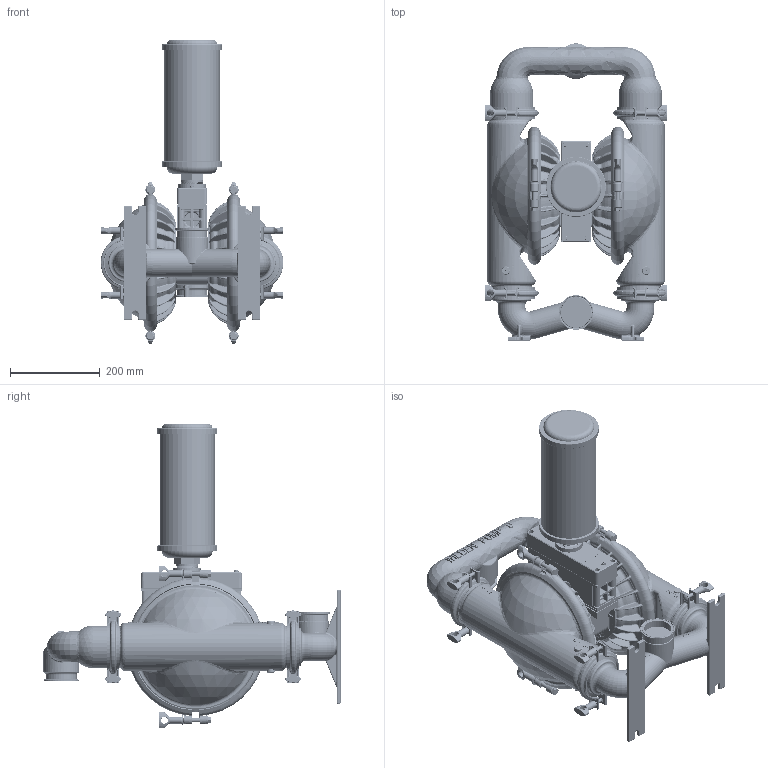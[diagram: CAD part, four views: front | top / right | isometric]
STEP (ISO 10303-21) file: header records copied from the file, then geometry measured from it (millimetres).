
FILE_DESCRIPTION (( 'STEP AP203' ), '1' );
FILE_NAME ('ps8_ss_fda_top s.STEP', '2022-07-06T11:44:58', ( '' ), ( '' ), 'SwSTEP 2.0', 'SolidWorks 2019', '' );
FILE_SCHEMA (( 'CONFIG_CONTROL_DESIGN' ));
Length unit declared in the file: inch
Products named in the file (1): ps8_ss_fda_top s
Bounding box: 407.71 x 662.76 x 678.62 mm (x, y, z)
Volume: 26152298.2 mm3; surface area: 1506112.9 mm2
Topology: 1 solids, 1 shells, 10463 faces, 27443 edges, 17282 vertices
Faces by surface type: plane 5812, bspline 2049, cylinder 1279, torus 724, cone 336, sphere 263
Entity records: 658913 total; most frequent: CARTESIAN_POINT 426356, ORIENTED_EDGE 54754, DIRECTION 39623, EDGE_CURVE 27377, VERTEX_POINT 17270, AXIS2_PLACEMENT_3D 14228, LINE 11167, VECTOR 11167
